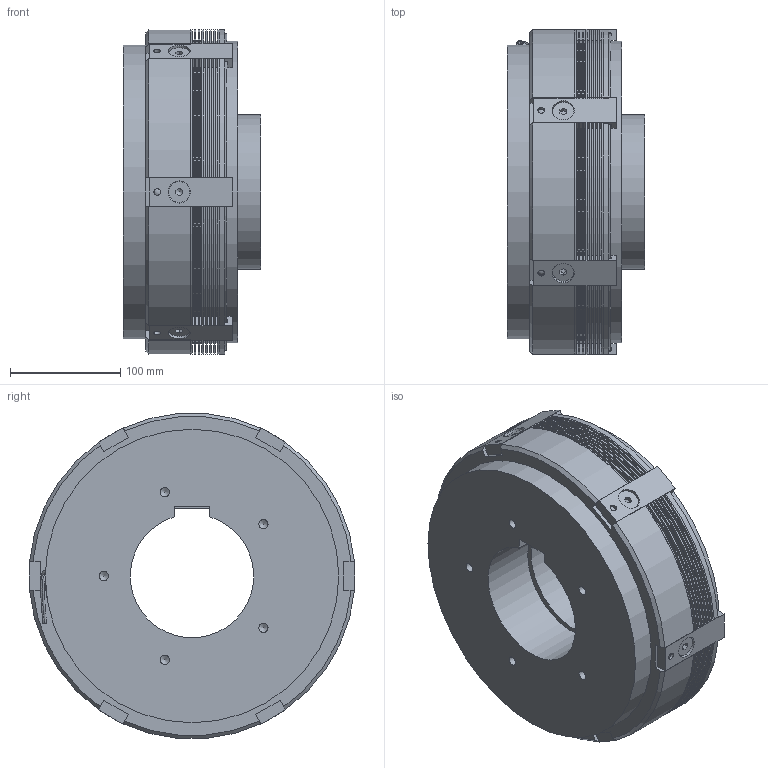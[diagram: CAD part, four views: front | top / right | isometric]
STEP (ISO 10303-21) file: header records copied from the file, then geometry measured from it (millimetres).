
FILE_DESCRIPTION(/* description */ (''),/* implementation_level */ '2;1');
FILE_NAME(/* name */ 'X:\INVENTOR\DISEGNI\05_Friz_Elettmag-Lam\05_06 EC_F\05_06_295_01 EC_F295\05_06_295_01 EC_F295-Fmax@STEP.stp',/* time_stamp */ '2019-04-01T10:51:34+02:00',/* author */ ('stefano'),/* organization */ (''),/* preprocessor_version */ 'ST-DEVELOPER v17',/* originating_system */ 'Autodesk Inventor 2018',/* authorisation */ '');
FILE_SCHEMA (('AUTOMOTIVE_DESIGN { 1 0 10303 214 3 1 1 }'));
Products named in the file (1): 05_06_295_01 EC_F295_Substitute_1
Bounding box: 125 x 295 x 294.38 mm (x, y, z)
Volume: 4774697.6 mm3; surface area: 1579729 mm2
Topology: 17 solids, 17 shells, 3207 faces, 9469 edges, 6300 vertices
Faces by surface type: cylinder 2613, plane 552, cone 30, sphere 6, bspline 3, torus 3
Full cylindrical faces by diameter (mm): 3.5 x6, 4 x1, 6 x6, 8.376 x11, 9 x1, 19.22 x6, 20 x6, 140 x1, 158 x2, 207 x1, 247 x1, 266 x1, 273 x1
Entity records: 114267 total; most frequent: DIRECTION 21171, CARTESIAN_POINT 19781, ORIENTED_EDGE 18930, EDGE_CURVE 9465, AXIS2_PLACEMENT_3D 8586, VERTEX_POINT 6313, CIRCLE 5379, LINE 3999
